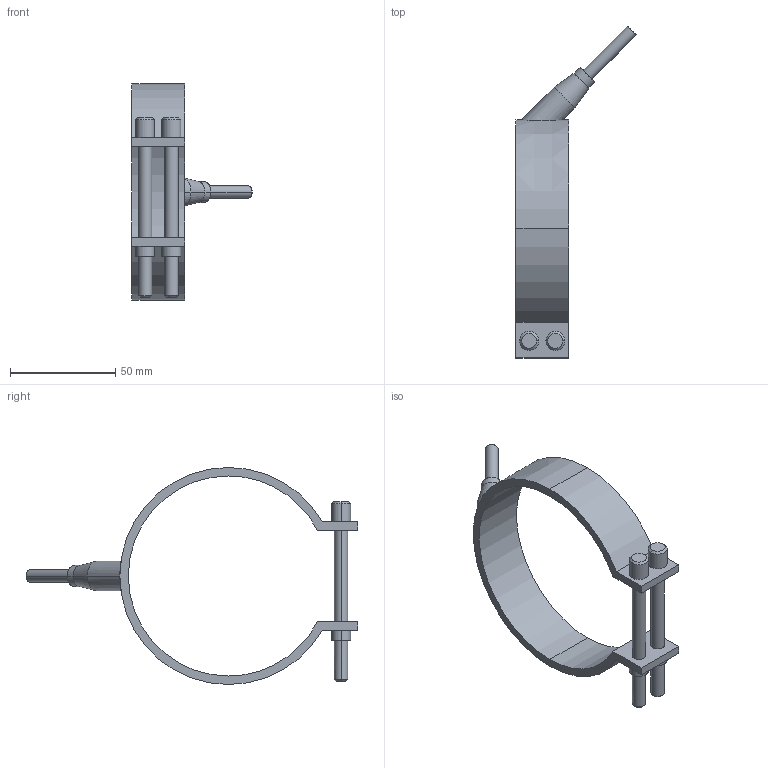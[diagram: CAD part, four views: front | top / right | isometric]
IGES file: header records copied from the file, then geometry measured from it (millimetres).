
Start section: START RECORD GO HERE.
Global section: file name: 29095025.igs; native system: DASSAULT SYSTEMES CATIA V5 R20 - www.3ds.com; preprocessor: CATIA Version 5 Release 20 ; author: Utente; organization: NB04-ASUS; date: 20210329.195536; units: millimetre
Bounding box: 57.05 x 157.55 x 103 mm (x, y, z)
Surface area: 22259.1 mm2 (no closed solid volume)
Topology: 0 solids, 0 shells, 54 faces, 246 edges, 246 vertices
Faces by surface type: revolution 38, plane 16
